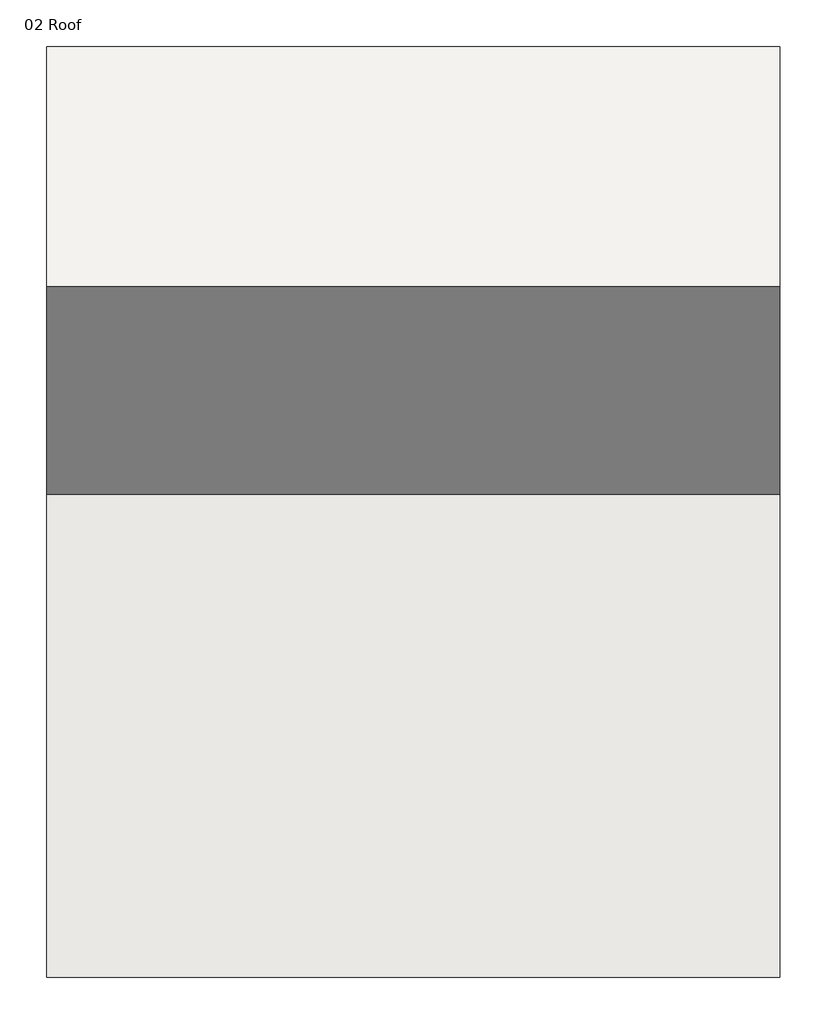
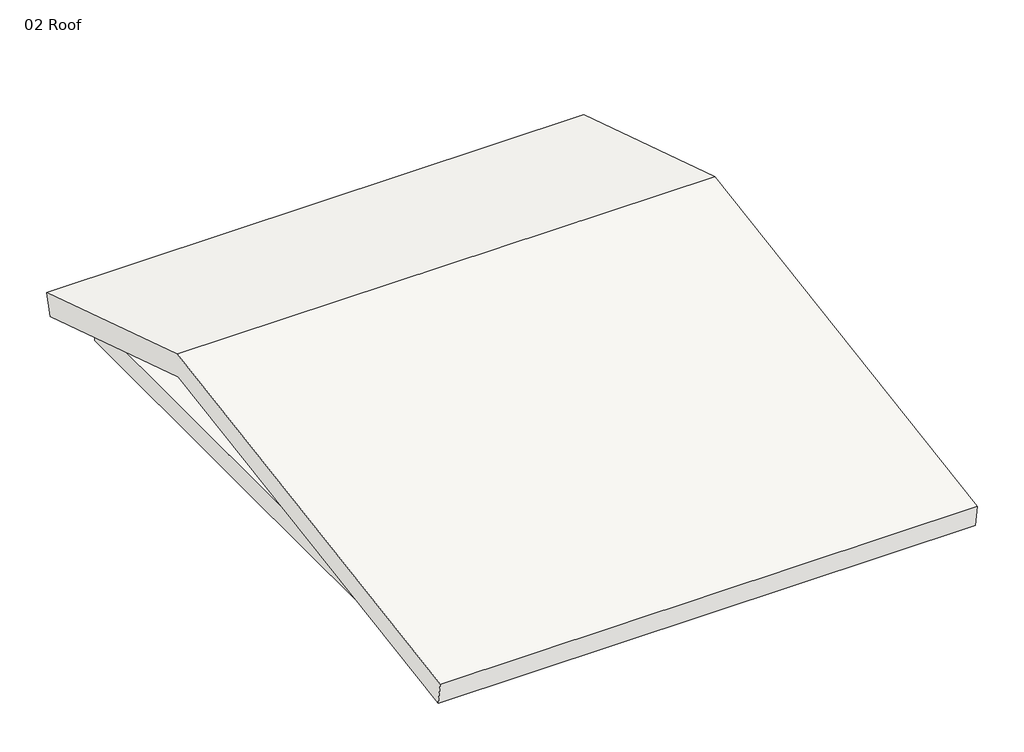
# One storey: 1 roof, 1 slab.
"""IFC4 building model written with IfcOpenShell, lengths in millimetres."""

from ifc_helpers import new_model, si_unit, frame, origin, place, context, project, spatial, polyline, circle_curve, outline, extrude, element, save
from ifc_brep_helpers import plane_surface, cylinder_surface, revolved_surface, advanced_brep

model = new_model("IFC4")

# Units and contexts
model_context = context("Model", 3, world=origin())
ifc_project = project(units=[si_unit("LENGTHUNIT", "METRE", prefix="MILLI")], contexts=[model_context])

# Site, building, storey
site = spatial("IfcSite", under=ifc_project)
building = spatial("IfcBuilding", under=site)
storey = spatial("IfcBuildingStorey", under=building, Name="02 Roof", Elevation=7000.0)

# Roof
placement = place(None, origin())
element("IfcRoof", 1, ObjectType="Warm Roof - Timber", at=placement, inside=storey, context=model_context, shape_type="SweptSolid", body=[
    extrude(outline(polyline([(-3512.7101648, 7342.3302983), (3363.2258588, 8446.4952072), (6787.2898352, 7354.764664), (6684.6143805, 7032.7371015), (3337.2898352, 8100.0), (-3459.1193727, 7008.6058206), (-3512.7101648, 7342.3302983)])), frame((-8787.5407999, 0.0, 0.0), z_axis=(1.0, 0.0, 0.0), x_axis=(0.0, 1.0, 0.0)), (0.0, 0.0, 1.0), 8115.0),
])

# Slab
element("IfcSlab", 2, ObjectType="Generic 300mm", at=placement, inside=storey, context=model_context, shape_type="AdvancedBrep", body=[
    advanced_brep(
    [(-8322.5407999, 6337.2898352, 6700.0), (-8122.5407999, 6337.2898352, 6700.0), (-6447.5407999, 6337.2898352, 6700.0), (-2997.5407999, 6337.2898352, 6700.0), (-1322.5407999, 6337.2898352, 6700.0), (-1122.5407999, 6337.2898352, 6700.0), (-1122.5407999, 5937.2898352, 6700.0), (-1122.5407999, 3337.2898352, 6700.0), (-1122.5407999, 2937.2898352, 6700.0), (-1122.5407999, 337.2898352, 6700.0), (-1122.5407999, -12.7101648, 6700.0), (-1122.5407999, -62.7101648, 6700.0), (-1122.5407999, -2849.7101648, 6700.0), (-1122.5407999, -3062.7101648, 6700.0), (-5882.5407999, -3062.7101648, 6700.0), (-8122.5407999, -3062.7101648, 6700.0), (-8322.5407999, -3062.7101648, 6700.0), (-8322.5407999, -2662.7101648, 6700.0), (-8322.5407999, -62.7101648, 6700.0), (-8322.5407999, 337.2898352, 6700.0), (-8322.5407999, 2937.2898352, 6700.0), (-8322.5407999, 3337.2898352, 6700.0), (-8322.5407999, 5937.2898352, 6700.0), (-3762.5550463, 1637.3625525, 6700.0), (-2962.1657331, 1637.3625525, 6700.0), (-2722.147977, 1397.3447964, 6700.0), (-2709.6572376, 597.4130295, 6700.0), (-8322.5407999, 6337.2898352, 7000.0), (-8322.5407999, -3062.7101648, 7000.0), (-5882.5407999, -3062.7101648, 7000.0), (-1122.5407999, -3062.7101648, 7000.0), (-1122.5407999, -2849.7101648, 7000.0), (-1122.5407999, -12.7101648, 7000.0), (-1122.5407999, 6337.2898352, 7000.0), (-2997.5407999, 6337.2898352, 7000.0), (-6447.5407999, 6337.2898352, 7000.0), (-3762.5550463, 1637.3625525, 7000.0), (-2709.6572376, 597.4130295, 7000.0), (-2722.147977, 1397.3447964, 7000.0), (-2962.1657331, 1637.3625525, 7000.0)],
    [
        (0, 1),
        (1, 2),
        (2, 3),
        (3, 4),
        (4, 5),
        (5, 6),
        (6, 7),
        (7, 8),
        (8, 9),
        (9, 10),
        (10, 11),
        (11, 12),
        (12, 13),
        (13, 14),
        (14, 15),
        (15, 16),
        (16, 17),
        (17, 18),
        (18, 19),
        (19, 20),
        (20, 21),
        (21, 22),
        (22, 0),
        (23, 24),
        (24, 25, circle_curve(frame((-2722.147977, 1637.3625525, 6700.0), z_axis=(0.0, 0.0, -1.0), x_axis=(1.0, 0.0, 0.0)), 240.0177561)),
        (25, 26),
        (26, 23, circle_curve(frame((-2722.5259059, 1637.3625525, 6700.0), z_axis=(0.0, 0.0, 1.0), x_axis=(1.0, 0.0, 0.0)), 1040.0291404)),
        (27, 28),
        (28, 29),
        (29, 30),
        (30, 31),
        (31, 32),
        (32, 33),
        (33, 34),
        (34, 35),
        (35, 27),
        (36, 37, circle_curve(frame((-2722.5259059, 1637.3625525, 7000.0), z_axis=(0.0, 0.0, -1.0), x_axis=(1.0, 0.0, 0.0)), 1040.0291404)),
        (37, 38),
        (38, 39, circle_curve(frame((-2722.147977, 1637.3625525, 7000.0), z_axis=(0.0, 0.0, 1.0), x_axis=(1.0, 0.0, 0.0)), 240.0177561)),
        (39, 36),
        (0, 27),
        (33, 5),
        (30, 13),
        (28, 16),
        (23, 36),
        (39, 24),
        (38, 25),
        (37, 26),
    ],
    [
        plane_surface(frame((4877.4592001, 6337.2898352, 6700.0), z_axis=(0.0, 0.0, -1.0), x_axis=(1.0, 0.0, 0.0))),
        plane_surface(frame((4877.4592001, 6337.2898352, 7000.0), z_axis=(0.0, 0.0, 1.0), x_axis=(-1.0, 0.0, 0.0))),
        plane_surface(frame((-8322.5407999, 6337.2898352, 6700.0), z_axis=(0.0, 1.0, 0.0), x_axis=(0.0, 0.0, 1.0))),
        plane_surface(frame((-1122.5407999, 6337.2898352, 6700.0), z_axis=(1.0, 0.0, 0.0), x_axis=(0.0, 0.0, 1.0))),
        plane_surface(frame((-1122.5407999, -3062.7101648, 6700.0), z_axis=(0.0, -1.0, 0.0), x_axis=(0.0, 0.0, 1.0))),
        plane_surface(frame((-8322.5407999, -3062.7101648, 6700.0), z_axis=(-1.0, 0.0, 0.0), x_axis=(0.0, 0.0, 1.0))),
        plane_surface(frame((-3762.5550463, 1637.3625525, 6700.0), z_axis=(0.0, 1.0, 0.0), x_axis=(0.0, 0.0, 1.0))),
        cylinder_surface(frame((-2722.147977, 1637.3625525, 7000.0), z_axis=(0.0, 0.0, -1.0), x_axis=(1.0, 0.0, 0.0)), 240.0177561),
        plane_surface(frame((-2722.147977, 1397.3447964, 6700.0), z_axis=(0.9998781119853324, 0.015612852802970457, 0.0), x_axis=(0.0, 0.0, 1.0))),
        revolved_surface(polyline([(-1682.4967655, 1637.3625525, 7000.0), (-1682.4967655, 1637.3625525, 6700.0)]), (-2722.5259059, 1637.3625525, 7000.0), (0.0, 0.0, 1.0)),
    ],
    [
        (0, [[1, 2, 3, 4, 5, 6, 7, 8, 9, 10, 11, 12, 13, 14, 15, 16, 17, 18, 19, 20, 21, 22, 23], [24, 25, 26, 27]]),
        (1, [[28, 29, 30, 31, 32, 33, 34, 35, 36], [37, 38, 39, 40]]),
        (2, [[-5, -4, -3, -2, -1, 41, -36, -35, -34, 42]]),
        (3, [[-13, -12, -11, -10, -9, -8, -7, -6, -42, -33, -32, -31, 43]]),
        (4, [[-16, -15, -14, -43, -30, -29, 44]]),
        (5, [[-23, -22, -21, -20, -19, -18, -17, -44, -28, -41]]),
        (6, [[-24, 45, -40, 46]]),
        (7, [[-25, -46, -39, 47]]),
        (8, [[-26, -47, -38, 48]]),
        (9, [[-27, -48, -37, -45]]),
    ],
),
])

save(model, "model.ifc")
